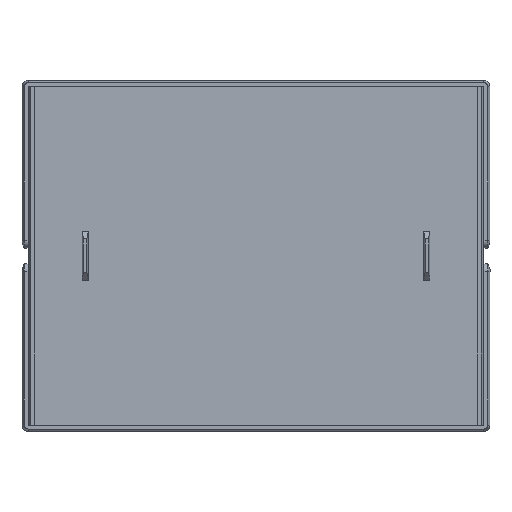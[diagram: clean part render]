
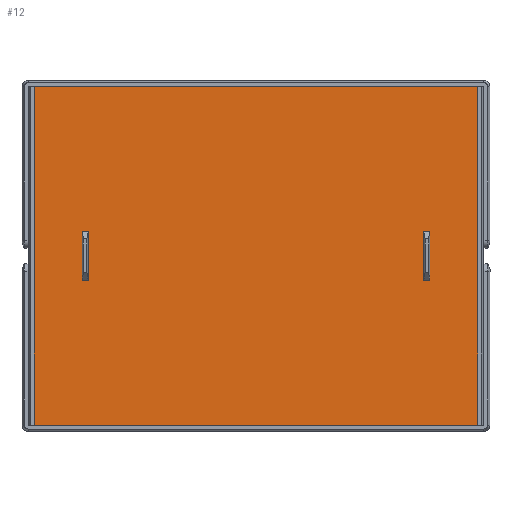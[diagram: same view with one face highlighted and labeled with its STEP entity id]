
A CAD part, top view. The second image highlights one B-rep face of the part: STEP entity #12.
In plain terms, the highlighted planar face has unit normal (0, 0, 1).
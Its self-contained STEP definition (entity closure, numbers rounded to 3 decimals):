
#12 = ADVANCED_FACE ( 'NONE', ( #4080, #3043, #4016 ), #581, .T. ) ;
#68 = LINE ( 'NONE', #2798, #2874 ) ;
#153 = VERTEX_POINT ( 'NONE', #4387 ) ;
#200 = CARTESIAN_POINT ( 'NONE',  ( 28.4, -21.7, 0. ) ) ;
#469 = ORIENTED_EDGE ( 'NONE', *, *, #1669, .F. ) ;
#502 = EDGE_CURVE ( 'NONE', #4788, #2929, #2514, .T. ) ;
#528 = DIRECTION ( 'NONE',  ( 1., 0., 0. ) ) ;
#581 = PLANE ( 'NONE',  #3201 ) ;
#583 = ORIENTED_EDGE ( 'NONE', *, *, #3452, .T. ) ;
#675 = DIRECTION ( 'NONE',  ( 0., 1., 0. ) ) ;
#676 = VERTEX_POINT ( 'NONE', #947 ) ;
#760 = EDGE_CURVE ( 'NONE', #882, #3569, #3485, .T. ) ;
#767 = EDGE_CURVE ( 'NONE', #3398, #153, #3118, .T. ) ;
#782 = LINE ( 'NONE', #1746, #3351 ) ;
#823 = EDGE_CURVE ( 'NONE', #882, #676, #1728, .T. ) ;
#882 = VERTEX_POINT ( 'NONE', #3296 ) ;
#883 = CARTESIAN_POINT ( 'NONE',  ( -28.4, 21.7, 0. ) ) ;
#916 = VERTEX_POINT ( 'NONE', #1534 ) ;
#947 = CARTESIAN_POINT ( 'NONE',  ( -21.5, -3.15, 0. ) ) ;
#1099 = ORIENTED_EDGE ( 'NONE', *, *, #767, .F. ) ;
#1145 = CARTESIAN_POINT ( 'NONE',  ( 21.5, -3.15, 0. ) ) ;
#1199 = CARTESIAN_POINT ( 'NONE',  ( -22.3, 3.15, 0. ) ) ;
#1245 = ORIENTED_EDGE ( 'NONE', *, *, #4786, .F. ) ;
#1288 = EDGE_CURVE ( 'NONE', #153, #4326, #782, .T. ) ;
#1326 = DIRECTION ( 'NONE',  ( 0., 1., 0. ) ) ;
#1361 = CARTESIAN_POINT ( 'NONE',  ( -21.5, 3.15, 0. ) ) ;
#1399 = DIRECTION ( 'NONE',  ( -1., 0., 0. ) ) ;
#1429 = LINE ( 'NONE', #2973, #4251 ) ;
#1433 = CARTESIAN_POINT ( 'NONE',  ( 21.5, 0., 0. ) ) ;
#1466 = EDGE_LOOP ( 'NONE', ( #469, #583, #3332, #3450 ) ) ;
#1534 = CARTESIAN_POINT ( 'NONE',  ( 21.5, 3.15, 0. ) ) ;
#1547 = EDGE_CURVE ( 'NONE', #4006, #676, #68, .T. ) ;
#1630 = ORIENTED_EDGE ( 'NONE', *, *, #2870, .F. ) ;
#1635 = DIRECTION ( 'NONE',  ( 0., 1., 0. ) ) ;
#1649 = CARTESIAN_POINT ( 'NONE',  ( -28.4, -21.7, 0. ) ) ;
#1669 = EDGE_CURVE ( 'NONE', #3682, #916, #4135, .T. ) ;
#1728 = LINE ( 'NONE', #3702, #4584 ) ;
#1746 = CARTESIAN_POINT ( 'NONE',  ( 28.4, -21.7, 0. ) ) ;
#1751 = CARTESIAN_POINT ( 'NONE',  ( 21.5, 3.15, 0. ) ) ;
#1940 = VECTOR ( 'NONE', #4029, 1000. ) ;
#1980 = CARTESIAN_POINT ( 'NONE',  ( 21.5, -3.15, 0. ) ) ;
#1991 = LINE ( 'NONE', #2343, #2871 ) ;
#2338 = LINE ( 'NONE', #1433, #4014 ) ;
#2343 = CARTESIAN_POINT ( 'NONE',  ( -28.4, -21.7, 0. ) ) ;
#2435 = EDGE_LOOP ( 'NONE', ( #1630, #4150, #1099, #1245 ) ) ;
#2437 = ORIENTED_EDGE ( 'NONE', *, *, #823, .F. ) ;
#2443 = ORIENTED_EDGE ( 'NONE', *, *, #1547, .T. ) ;
#2475 = CARTESIAN_POINT ( 'NONE',  ( -22.3, 0., 0. ) ) ;
#2514 = LINE ( 'NONE', #1980, #3523 ) ;
#2613 = DIRECTION ( 'NONE',  ( 1., 0., 0. ) ) ;
#2784 = DIRECTION ( 'NONE',  ( 0., -1., 0. ) ) ;
#2798 = CARTESIAN_POINT ( 'NONE',  ( -21.5, 0., 0. ) ) ;
#2870 = EDGE_CURVE ( 'NONE', #4326, #4325, #1991, .T. ) ;
#2871 = VECTOR ( 'NONE', #1635, 1000. ) ;
#2874 = VECTOR ( 'NONE', #2784, 1000. ) ;
#2929 = VERTEX_POINT ( 'NONE', #4668 ) ;
#2973 = CARTESIAN_POINT ( 'NONE',  ( 22.3, 0., 0. ) ) ;
#3043 = FACE_BOUND ( 'NONE', #3715, .T. ) ;
#3052 = ORIENTED_EDGE ( 'NONE', *, *, #760, .T. ) ;
#3118 = LINE ( 'NONE', #200, #4337 ) ;
#3155 = VECTOR ( 'NONE', #1399, 1000. ) ;
#3201 = AXIS2_PLACEMENT_3D ( 'NONE', #3541, #4000, #3591 ) ;
#3238 = DIRECTION ( 'NONE',  ( -1., 0., 0. ) ) ;
#3255 = EDGE_CURVE ( 'NONE', #4788, #916, #2338, .T. ) ;
#3296 = CARTESIAN_POINT ( 'NONE',  ( -22.3, -3.15, 0. ) ) ;
#3332 = ORIENTED_EDGE ( 'NONE', *, *, #502, .F. ) ;
#3349 = EDGE_CURVE ( 'NONE', #4006, #3569, #4190, .T. ) ;
#3351 = VECTOR ( 'NONE', #3238, 1000. ) ;
#3398 = VERTEX_POINT ( 'NONE', #4892 ) ;
#3442 = ORIENTED_EDGE ( 'NONE', *, *, #3349, .F. ) ;
#3450 = ORIENTED_EDGE ( 'NONE', *, *, #3255, .T. ) ;
#3452 = EDGE_CURVE ( 'NONE', #3682, #2929, #1429, .T. ) ;
#3485 = LINE ( 'NONE', #2475, #4456 ) ;
#3523 = VECTOR ( 'NONE', #528, 1000. ) ;
#3541 = CARTESIAN_POINT ( 'NONE',  ( 0., 0., 0. ) ) ;
#3569 = VERTEX_POINT ( 'NONE', #1199 ) ;
#3591 = DIRECTION ( 'NONE',  ( 1., 0., 0. ) ) ;
#3653 = DIRECTION ( 'NONE',  ( 1., 0., 0. ) ) ;
#3682 = VERTEX_POINT ( 'NONE', #4260 ) ;
#3702 = CARTESIAN_POINT ( 'NONE',  ( -21.5, -3.15, 0. ) ) ;
#3715 = EDGE_LOOP ( 'NONE', ( #2437, #3052, #3442, #2443 ) ) ;
#3745 = CARTESIAN_POINT ( 'NONE',  ( 28.4, 21.7, 0. ) ) ;
#4000 = DIRECTION ( 'NONE',  ( 0., 0., 1. ) ) ;
#4006 = VERTEX_POINT ( 'NONE', #4448 ) ;
#4014 = VECTOR ( 'NONE', #675, 1000. ) ;
#4016 = FACE_BOUND ( 'NONE', #1466, .T. ) ;
#4029 = DIRECTION ( 'NONE',  ( -1., 0., 0. ) ) ;
#4080 = FACE_OUTER_BOUND ( 'NONE', #2435, .T. ) ;
#4135 = LINE ( 'NONE', #1751, #1940 ) ;
#4143 = DIRECTION ( 'NONE',  ( 0., -1., 0. ) ) ;
#4150 = ORIENTED_EDGE ( 'NONE', *, *, #1288, .F. ) ;
#4190 = LINE ( 'NONE', #1361, #3155 ) ;
#4251 = VECTOR ( 'NONE', #4143, 1000. ) ;
#4260 = CARTESIAN_POINT ( 'NONE',  ( 22.3, 3.15, 0. ) ) ;
#4325 = VERTEX_POINT ( 'NONE', #883 ) ;
#4326 = VERTEX_POINT ( 'NONE', #1649 ) ;
#4337 = VECTOR ( 'NONE', #4794, 1000. ) ;
#4387 = CARTESIAN_POINT ( 'NONE',  ( 28.4, -21.7, 0. ) ) ;
#4405 = LINE ( 'NONE', #3745, #4588 ) ;
#4448 = CARTESIAN_POINT ( 'NONE',  ( -21.5, 3.15, 0. ) ) ;
#4456 = VECTOR ( 'NONE', #1326, 1000. ) ;
#4584 = VECTOR ( 'NONE', #3653, 1000. ) ;
#4588 = VECTOR ( 'NONE', #2613, 1000. ) ;
#4668 = CARTESIAN_POINT ( 'NONE',  ( 22.3, -3.15, 0. ) ) ;
#4786 = EDGE_CURVE ( 'NONE', #4325, #3398, #4405, .T. ) ;
#4788 = VERTEX_POINT ( 'NONE', #1145 ) ;
#4794 = DIRECTION ( 'NONE',  ( 0., -1., 0. ) ) ;
#4892 = CARTESIAN_POINT ( 'NONE',  ( 28.4, 21.7, 0. ) ) ;
